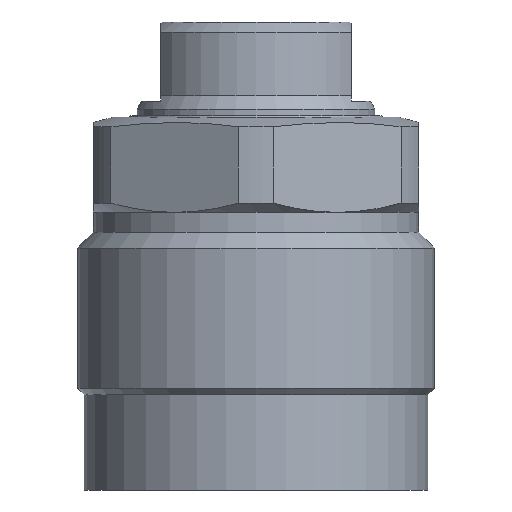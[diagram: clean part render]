
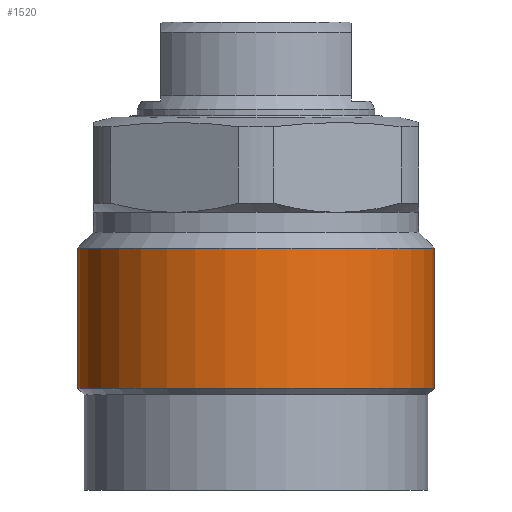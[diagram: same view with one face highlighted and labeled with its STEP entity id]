
A CAD part, front view. The second image highlights one B-rep face of the part: STEP entity #1520.
In plain terms, the highlighted cylindrical face has radius 22.5 mm (diameter 45 mm), a partial arc.
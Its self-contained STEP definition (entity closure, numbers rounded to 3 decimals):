
#1457=CARTESIAN_POINT('',(-22.5,0.0,-34.15));
#1458=VERTEX_POINT('',#1457);
#1466=CARTESIAN_POINT('',(22.5,0.0,-34.15));
#1467=VERTEX_POINT('',#1466);
#1474=CARTESIAN_POINT('',(0.0,0.0,-34.15));
#1475=DIRECTION('',(0.0,0.0,1.0));
#1476=DIRECTION('',(1.0,0.0,0.0));
#1477=AXIS2_PLACEMENT_3D('',#1474,#1475,#1476);
#1478=CIRCLE('',#1477,22.5);
#1479=EDGE_CURVE('no 2110',#1458,#1467,#1478,.T.);
#1489=CARTESIAN_POINT('',(-22.5,0.0,-16.5));
#1490=VERTEX_POINT('',#1489);
#1491=CARTESIAN_POINT('',(-22.5,0.0,-34.15));
#1492=DIRECTION('',(0.0,-0.0,1.0));
#1493=VECTOR('',#1492,1.0);
#1494=LINE('',#1491,#1493);
#1495=EDGE_CURVE('no 2120',#1458,#1490,#1494,.T.);
#1496=ORIENTED_EDGE('',*,*,#1495,.F.);
#1497=ORIENTED_EDGE('',*,*,#1479,.T.);
#1498=CARTESIAN_POINT('',(22.5,0.0,-16.5));
#1499=VERTEX_POINT('',#1498);
#1500=CARTESIAN_POINT('',(22.5,0.0,-34.15));
#1501=DIRECTION('',(0.0,0.0,1.0));
#1502=VECTOR('',#1501,1.0);
#1503=LINE('',#1500,#1502);
#1504=EDGE_CURVE('no 2128',#1467,#1499,#1503,.T.);
#1505=ORIENTED_EDGE('',*,*,#1504,.T.);
#1506=CARTESIAN_POINT('',(0.0,0.0,-16.5));
#1507=DIRECTION('',(0.0,0.0,1.0));
#1508=DIRECTION('',(1.0,0.0,0.0));
#1509=AXIS2_PLACEMENT_3D('',#1506,#1507,#1508);
#1510=CIRCLE('',#1509,22.5);
#1511=EDGE_CURVE('no 2132',#1490,#1499,#1510,.T.);
#1512=ORIENTED_EDGE('',*,*,#1511,.F.);
#1513=EDGE_LOOP('',(#1496,#1497,#1505,#1512));
#1514=FACE_OUTER_BOUND('',#1513,.T.);
#1515=CARTESIAN_POINT('',(0.0,0.0,5.219));
#1516=DIRECTION('',(0.0,0.0,1.0));
#1517=DIRECTION('',(0.0,1.0,0.0));
#1518=AXIS2_PLACEMENT_3D('',#1515,#1516,#1517);
#1519=CYLINDRICAL_SURFACE('',#1518,22.5);
#1520=ADVANCED_FACE('no 2113',(#1514),#1519,.T.);
